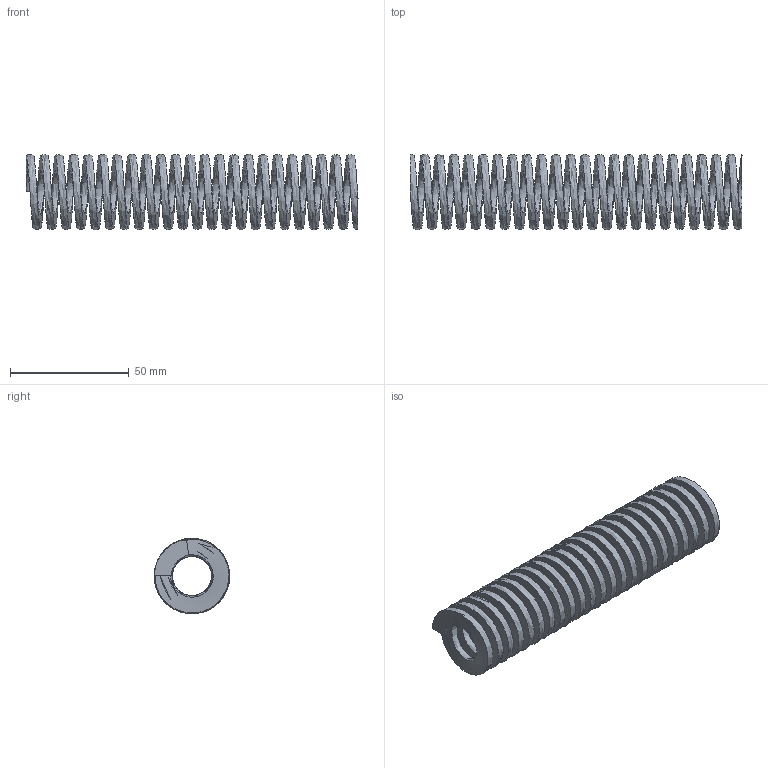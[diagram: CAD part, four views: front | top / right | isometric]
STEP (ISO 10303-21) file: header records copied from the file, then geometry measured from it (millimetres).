
FILE_DESCRIPTION (( 'STEP AP203' ), '1' );
FILE_NAME ('HS125L5.5.step', '2020-08-24T12:20:35', ( 'Microsoft Corporation' ), ( 'MS' ), 'SwSTEP 2.0', 'SolidWorks 2018', '' );
FILE_SCHEMA (( 'CONFIG_CONTROL_DESIGN' ));
Length unit declared in the file: inch
Products named in the file (1): HS125L5.5
Bounding box: 139.7 x 31.75 x 31.75 mm (x, y, z)
Volume: 33441.8 mm3; surface area: 34069.9 mm2
Topology: 1 solids, 1 shells, 8 faces, 18 edges, 12 vertices
Faces by surface type: bspline 4, plane 4
Entity records: 6999 total; most frequent: CARTESIAN_POINT 6767, ORIENTED_EDGE 36, DIRECTION 22, EDGE_CURVE 18, VERTEX_POINT 12, B_SPLINE_CURVE_WITH_KNOTS 10, AXIS2_PLACEMENT_3D 9, FACE_OUTER_BOUND 8
